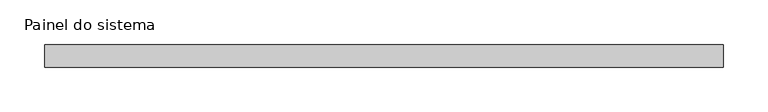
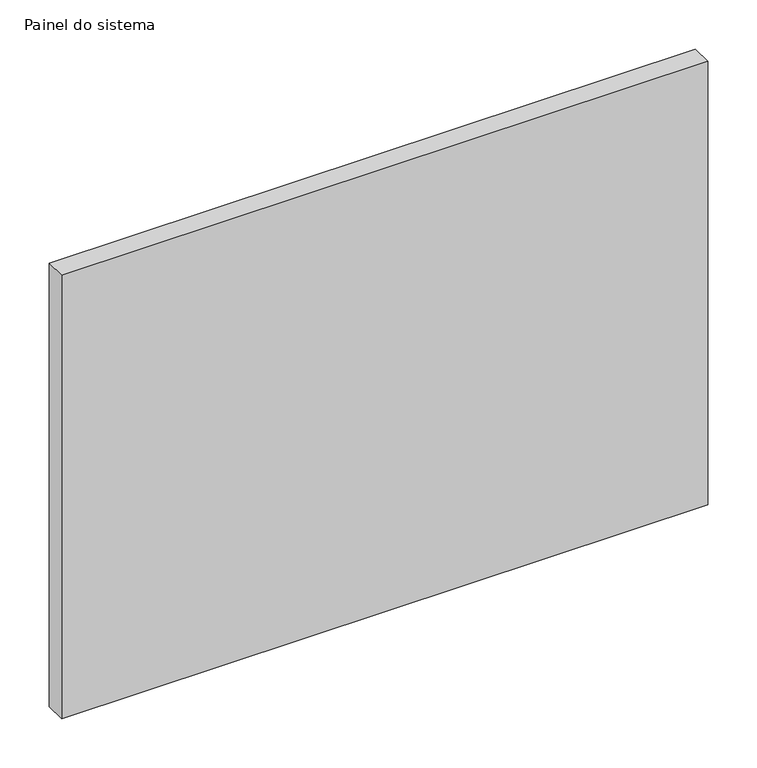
"""IFC4 building model written with IfcOpenShell, lengths in millimetres: plate geometry, Painel do sistema : Envidraçado."""

from ifc_helpers import new_model, si_unit, origin, origin_with_axes, place, context, project, spatial, polyline, outline, extrude, source, transform, mapped, element, save


def painel_do_sistema_2a1d9657(model_context):
    return source(origin(), model_context, "Body", "SweptSolid", [
        extrude(outline(polyline([(379.15, 24.5), (-379.15, 24.5), (-379.15, 49.5), (379.15, 49.5), (379.15, 24.5)])), origin_with_axes(), (0.0, 0.0, 1.0), 550.0),
    ])


if __name__ == "__main__":
    model = new_model("IFC4")
    model_context = context("Model", 3, world=origin())
    ifc_project = project(units=[si_unit("LENGTHUNIT", "METRE", prefix="MILLI")], contexts=[model_context])
    site = spatial("IfcSite", under=ifc_project)
    building = spatial("IfcBuilding", under=site)
    placement = place(None, origin())
    painel_do_sistema_shape = painel_do_sistema_2a1d9657(model_context)
    element("IfcPlate", 1, ObjectType="Painel do sistema : Envidraçado", at=placement, inside=building, context=model_context, shape_type="MappedRepresentation", body=[
        mapped(painel_do_sistema_shape, transform((0.0, 0.0, 0.0), x_axis=(1.0, 0.0, 0.0), y_axis=(0.0, 1.0, 0.0), z_axis=(0.0, 0.0, 1.0))),
    ])
    save(model, "model.ifc")
